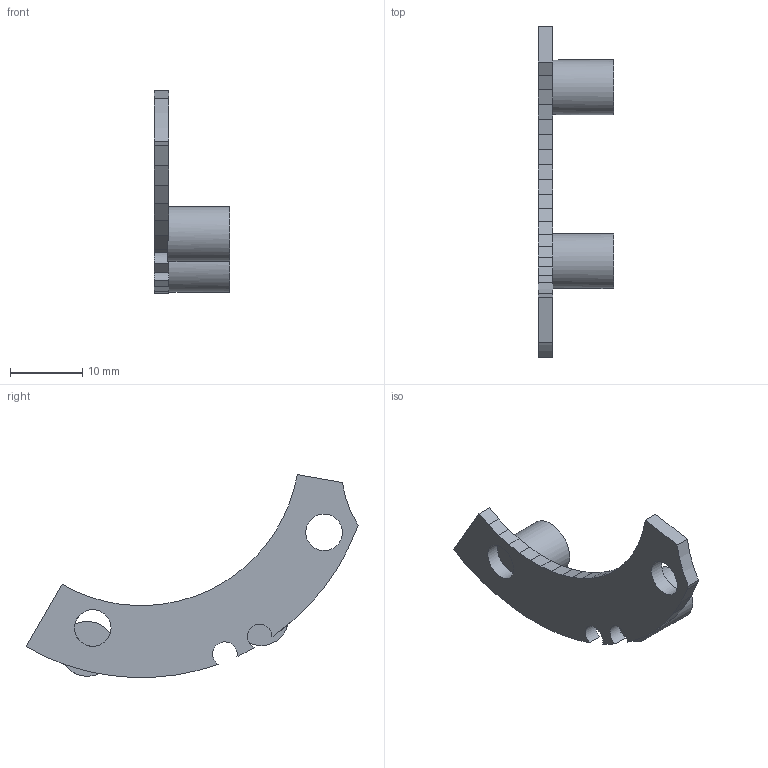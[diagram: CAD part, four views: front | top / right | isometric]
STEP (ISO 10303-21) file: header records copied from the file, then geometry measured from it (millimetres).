
FILE_DESCRIPTION(('Open CASCADE Model'),'2;1');
FILE_NAME('B3_R12_removable_rear_support','2026-09-28T18:17:16',( 'Author'),('Open CASCADE'),'Open CASCADE STEP processor 7.9', 'build123d','Unknown');
FILE_SCHEMA(('AUTOMOTIVE_DESIGN { 1 0 10303 214 1 1 1 1 }'));
Length unit declared in the file: millimetre
Products named in the file (1): B3_R12_removable_rear_support
Bounding box: 10.5 x 46.09 x 28.15 mm (x, y, z)
Volume: 1623.9 mm3; surface area: 1757.3 mm2
Topology: 1 solids, 1 shells, 59 faces, 168 edges, 112 vertices
Faces by surface type: plane 50, cylinder 9
Full cylindrical faces by diameter (mm): 2.6 x2, 5.08 x2, 7.6 x2
Entity records: 4094 total; most frequent: CARTESIAN_POINT 722, DIRECTION 615, LINE 416, VECTOR 416, ORIENTED_EDGE 336, PCURVE 336, DEFINITIONAL_REPRESENTATION 336, EDGE_CURVE 168
